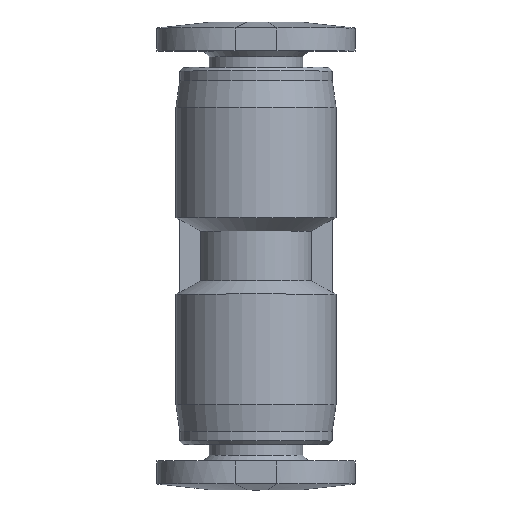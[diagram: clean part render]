
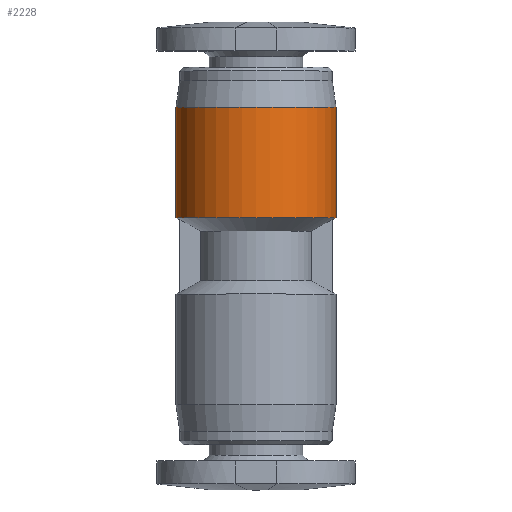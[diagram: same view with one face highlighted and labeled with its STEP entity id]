
A CAD part, top view. The second image highlights one B-rep face of the part: STEP entity #2228.
In plain terms, the highlighted cylindrical face has radius 4.2 mm (diameter 8.4 mm), a partial arc.
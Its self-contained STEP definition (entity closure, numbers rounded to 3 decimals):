
#110 = CYLINDRICAL_SURFACE ( 'NONE', #1343, 4.2 ) ;
#197 = ORIENTED_EDGE ( 'NONE', *, *, #1213, .T. ) ;
#232 = DIRECTION ( 'NONE',  ( -1., 0., 0. ) ) ;
#265 = CARTESIAN_POINT ( 'NONE',  ( -4.2, 7.8, 0. ) ) ;
#396 = EDGE_LOOP ( 'NONE', ( #197, #683, #2312, #1335 ) ) ;
#457 = EDGE_CURVE ( 'NONE', #1675, #1837, #1551, .T. ) ;
#519 = AXIS2_PLACEMENT_3D ( 'NONE', #1371, #2339, #232 ) ;
#595 = VECTOR ( 'NONE', #1553, 1000. ) ;
#674 = CIRCLE ( 'NONE', #519, 4.2 ) ;
#679 = EDGE_CURVE ( 'NONE', #1818, #2323, #2409, .T. ) ;
#683 = ORIENTED_EDGE ( 'NONE', *, *, #457, .T. ) ;
#691 = CARTESIAN_POINT ( 'NONE',  ( 0., 7.8, 0. ) ) ;
#696 = CARTESIAN_POINT ( 'NONE',  ( 0., 4.9, 0. ) ) ;
#890 = DIRECTION ( 'NONE',  ( -1., 0., 0. ) ) ;
#962 = VECTOR ( 'NONE', #1156, 1000. ) ;
#1156 = DIRECTION ( 'NONE',  ( 0., 1., 0. ) ) ;
#1213 = EDGE_CURVE ( 'NONE', #1818, #1675, #674, .T. ) ;
#1335 = ORIENTED_EDGE ( 'NONE', *, *, #679, .F. ) ;
#1343 = AXIS2_PLACEMENT_3D ( 'NONE', #696, #1855, #890 ) ;
#1371 = CARTESIAN_POINT ( 'NONE',  ( 0., 2., 0. ) ) ;
#1416 = EDGE_CURVE ( 'NONE', #2323, #1837, #2025, .T. ) ;
#1477 = DIRECTION ( 'NONE',  ( 0., 1., 0. ) ) ;
#1551 = LINE ( 'NONE', #2471, #962 ) ;
#1553 = DIRECTION ( 'NONE',  ( 0., 1., 0. ) ) ;
#1667 = FACE_OUTER_BOUND ( 'NONE', #396, .T. ) ;
#1675 = VERTEX_POINT ( 'NONE', #1785 ) ;
#1694 = CARTESIAN_POINT ( 'NONE',  ( -4.2, 2., 0. ) ) ;
#1785 = CARTESIAN_POINT ( 'NONE',  ( 4.2, 2., 0. ) ) ;
#1818 = VERTEX_POINT ( 'NONE', #1694 ) ;
#1834 = CARTESIAN_POINT ( 'NONE',  ( 4.2, 7.8, 0. ) ) ;
#1837 = VERTEX_POINT ( 'NONE', #1834 ) ;
#1855 = DIRECTION ( 'NONE',  ( 0., 1., 0. ) ) ;
#2025 = CIRCLE ( 'NONE', #2302, 4.2 ) ;
#2091 = DIRECTION ( 'NONE',  ( -1., 0., 0. ) ) ;
#2228 = ADVANCED_FACE ( 'NONE', ( #1667 ), #110, .T. ) ;
#2302 = AXIS2_PLACEMENT_3D ( 'NONE', #691, #1477, #2091 ) ;
#2312 = ORIENTED_EDGE ( 'NONE', *, *, #1416, .F. ) ;
#2323 = VERTEX_POINT ( 'NONE', #265 ) ;
#2329 = CARTESIAN_POINT ( 'NONE',  ( -4.2, 4.9, 0. ) ) ;
#2339 = DIRECTION ( 'NONE',  ( 0., 1., 0. ) ) ;
#2409 = LINE ( 'NONE', #2329, #595 ) ;
#2471 = CARTESIAN_POINT ( 'NONE',  ( 4.2, 4.9, 0. ) ) ;
